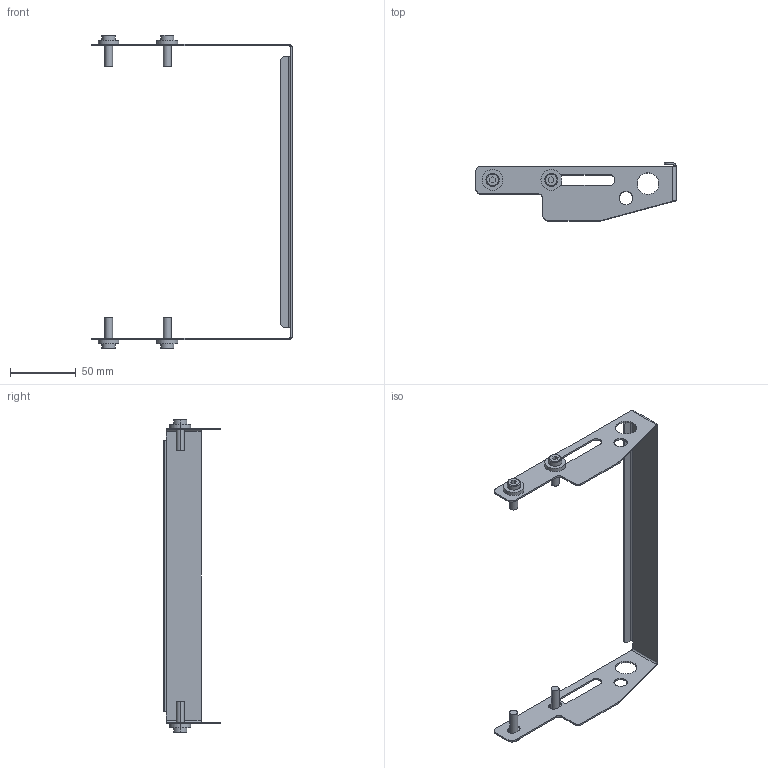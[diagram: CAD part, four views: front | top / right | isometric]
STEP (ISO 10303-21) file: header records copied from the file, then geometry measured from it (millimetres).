
FILE_DESCRIPTION((''),'2;1');
FILE_NAME('207218-08_ASM','2016-10-13T',('jenni.wallner'),(''),'PRO/ENGINEER BY PARAMETRIC TECHNOLOGY CORPORATION, 2012420','PRO/ENGINEER BY PARAMETRIC TECHNOLOGY CORPORATION, 2012420','');
FILE_SCHEMA(('CONFIG_CONTROL_DESIGN'));
Length unit declared in the file: inch
Products named in the file (4): 207218-08; P605279; P950620M; 207218-08_ASM
Assembly tree (9 placements, depth 2):
  207218-08_ASM
    207218-08
    P605279  x4
    P950620M  x4
Bounding box: 151.79 x 43.71 x 237.9 mm (x, y, z)
Volume: 24358.1 mm3; surface area: 38243.1 mm2
Topology: 9 solids, 9 shells, 184 faces, 448 edges, 290 vertices
Faces by surface type: plane 90, cylinder 78, cone 16
Entity records: 3722 total; most frequent: DIRECTION 658, CARTESIAN_POINT 637, ORIENTED_EDGE 596, EDGE_CURVE 298, AXIS2_PLACEMENT_3D 239, VERTEX_POINT 194, VECTOR 180, LINE 180
